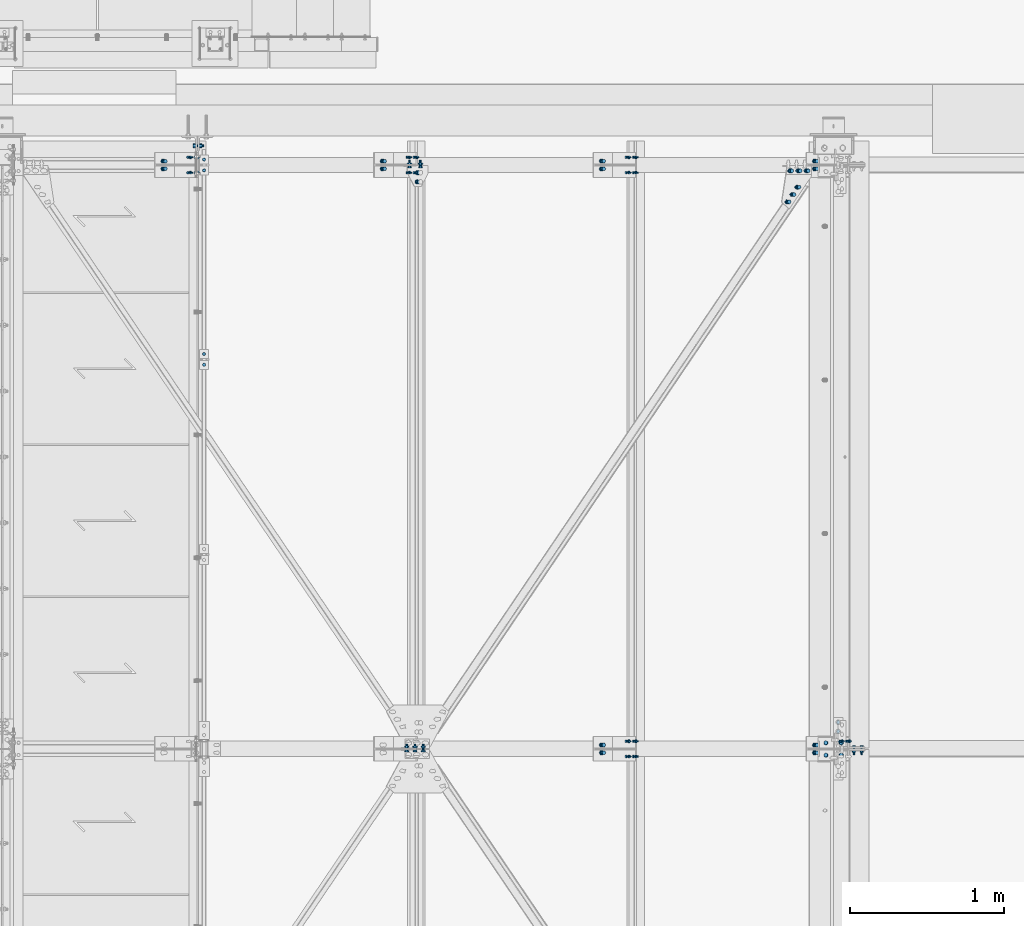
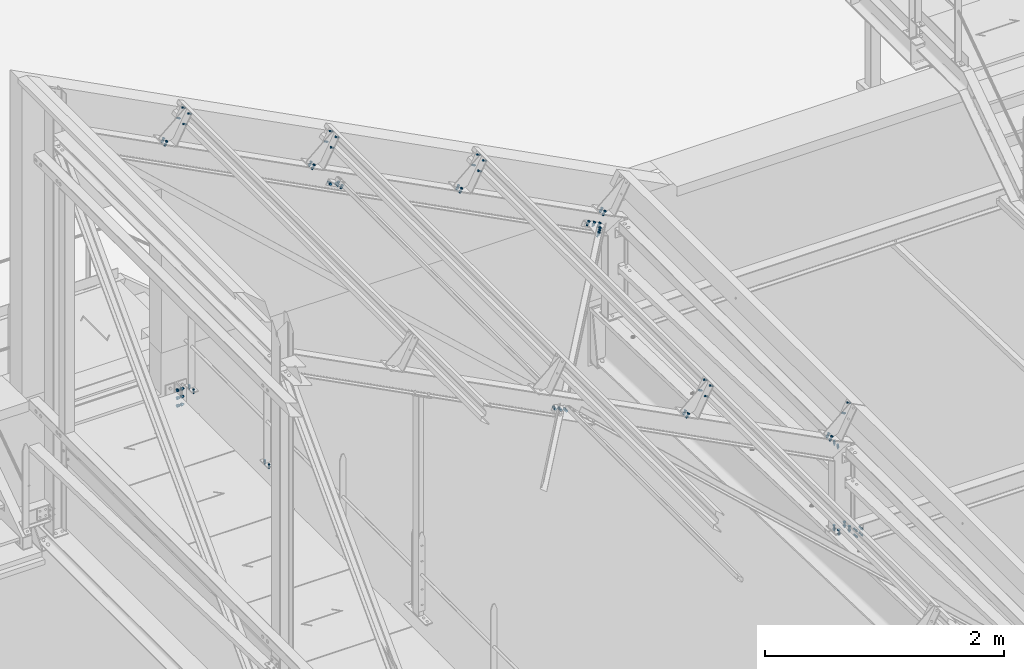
# One storey, part 177 of 362: 22 mechanical fasteners.
"""IFC2X3 building model written with IfcOpenShell, lengths in millimetres."""

import ifcopenshell
import ifcopenshell.guid

model = None  # the IFC model being written
_history = None  # IfcOwnerHistory: only IFC2X3 demands one
_inside = {}  # id of a spatial element -> (the spatial element, [elements in it])
_under = {}  # id of a project, library or spatial element -> (it, [spatial elements below it])
_declared = {}  # id of a project -> (the project, [libraries it declares])
_typed = {}  # id of a type object -> (the type object, [elements of that type])
_made_of = {}  # id of a material, layer set ... -> (it, [elements and type objects made of it])


def new_model(schema):
    """Start an empty IFC model of exactly this schema.

    Asked for "IFC4X3", IfcOpenShell would pick the latest addendum, in which some entities
    have other attributes; the version numbers below select the first issue.
    IFC2X3 requires an IfcOwnerHistory on every rooted entity: one is made here for all.
    """
    global model, _history
    if schema == "IFC4X3":
        model = ifcopenshell.file(schema_version=(4, 3, 0, 0))
    else:
        model = ifcopenshell.file(schema=schema)
    _inside.clear()
    _under.clear()
    _declared.clear()
    _typed.clear()
    _made_of.clear()
    _history = None
    if model.schema == "IFC2X3":
        org = make("IfcOrganization", Name="unknown")
        user = make(
            "IfcPersonAndOrganization",
            ThePerson=make("IfcPerson", FamilyName="unknown"),
            TheOrganization=org,
        )
        app = make(
            "IfcApplication",
            ApplicationDeveloper=org,
            Version="unknown",
            ApplicationFullName="unknown",
            ApplicationIdentifier="unknown",
        )
        _history = make(
            "IfcOwnerHistory",
            OwningUser=user,
            OwningApplication=app,
            ChangeAction="ADDED",
            CreationDate=0,
        )
    return model


def make(cls, **values):
    """One entity of the class cls with the attributes given. An attribute that is None is left unset."""
    return model.create_entity(
        cls, **{name: value for name, value in values.items() if value is not None}
    )


def rooted(cls, **values):
    """An entity with a GlobalId (a new one), such as an element, a storey or a relation."""
    return make(cls, GlobalId=ifcopenshell.guid.new(), OwnerHistory=_history, **values)


def si_unit(unit_type, name, prefix=None):
    """IfcSIUnit, for example si_unit("LENGTHUNIT", "METRE", prefix="MILLI")."""
    return make("IfcSIUnit", UnitType=unit_type, Prefix=prefix, Name=name)


def assignment(units):
    """IfcUnitAssignment: the units of a project."""
    return None if units is None else make("IfcUnitAssignment", Units=units)


def point(xyz):
    """IfcCartesianPoint."""
    return None if xyz is None else make("IfcCartesianPoint", Coordinates=xyz)


def direction(xyz):
    """IfcDirection."""
    return None if xyz is None else make("IfcDirection", DirectionRatios=xyz)


def frame(location, z_axis=None, x_axis=None):
    """IfcAxis2Placement3D, a coordinate frame: its origin and axes. An axis left out is left unset."""
    return make(
        "IfcAxis2Placement3D",
        Location=point(location),
        Axis=direction(z_axis),
        RefDirection=direction(x_axis),
    )


def frame_2d(location, x_axis=None):
    """IfcAxis2Placement2D, a coordinate frame in the plane: its origin and x axis."""
    return make(
        "IfcAxis2Placement2D", Location=point(location), RefDirection=direction(x_axis)
    )


def origin_with_axes():
    """The frame at (0, 0, 0) with the z axis (0, 0, 1) and the x axis (1, 0, 0) written out."""
    return frame((0.0, 0.0, 0.0), z_axis=(0.0, 0.0, 1.0), x_axis=(1.0, 0.0, 0.0))


def origin_2d_with_axis():
    """The frame at (0, 0) in the plane with the x axis (1, 0) written out."""
    return frame_2d((0.0, 0.0), x_axis=(1.0, 0.0))


def place(relative_to, where):
    """IfcLocalPlacement: puts the frame where relative to a parent placement (None: the world)."""
    return make(
        "IfcLocalPlacement", PlacementRelTo=relative_to, RelativePlacement=where
    )


def context(
    kind, dimensions, precision=None, world=None, true_north=None, identifier=None
):
    """IfcGeometricRepresentationContext, for example the 3D "Model" context."""
    return make(
        "IfcGeometricRepresentationContext",
        ContextIdentifier=identifier,
        ContextType=kind,
        CoordinateSpaceDimension=dimensions,
        Precision=precision,
        WorldCoordinateSystem=world,
        TrueNorth=true_north,
    )


def subcontext(parent, identifier, kind, view, scale=None):
    """IfcGeometricRepresentationSubContext, for example "Body" below "Model"."""
    return make(
        "IfcGeometricRepresentationSubContext",
        ContextIdentifier=identifier,
        ContextType=kind,
        ParentContext=parent,
        TargetScale=scale,
        TargetView=view,
    )


def project(units=None, contexts=None):
    """IfcProject with its units and contexts."""
    return rooted(
        "IfcProject",
        Name="project",
        RepresentationContexts=contexts,
        UnitsInContext=assignment(units),
    )


def spatial(cls, under=None, at=None, **own):
    """A site, building, storey or space (cls), placed at a placement, below another one or the project."""
    s = rooted(cls, ObjectPlacement=at, **own)
    if under is not None:
        _under.setdefault(under.id(), (under, []))[1].append(s)
    return s


def polyline(points):
    """IfcPolyline through the points."""
    return make("IfcPolyline", Points=[point(p) for p in points])


def circle_curve(where, radius):
    """IfcCircle in the frame where."""
    return make("IfcCircle", Position=where, Radius=radius)


def parameter(value):
    """IfcParameterValue: where a trimmed curve begins or ends, as a parameter of its basis curve."""
    return model.create_entity("IfcParameterValue", value)


def trimmed(basis, trim1, trim2, sense, master):
    """IfcTrimmedCurve: the piece of a basis curve between two trims."""
    return make(
        "IfcTrimmedCurve",
        BasisCurve=basis,
        Trim1=trim1,
        Trim2=trim2,
        SenseAgreement=sense,
        MasterRepresentation=master,
    )


def segment(curve, same_sense, transition):
    """IfcCompositeCurveSegment."""
    return make(
        "IfcCompositeCurveSegment",
        Transition=transition,
        SameSense=same_sense,
        ParentCurve=curve,
    )


def composite_curve(segments, self_intersect=None):
    """IfcCompositeCurve: segments joined end to end."""
    return make("IfcCompositeCurve", Segments=segments, SelfIntersect=self_intersect)


def profile(cls, at=None, kind="AREA", **sizes):
    """A parametric profile (cls). Its sizes go by their IFC names, for example OverallWidth=200.0."""
    return make(cls, ProfileType=kind, Position=at, **sizes)


def circle(**sizes):
    """IfcCircleProfileDef."""
    return profile("IfcCircleProfileDef", **sizes)


def outline(outer, holes=None, kind="AREA"):
    """IfcArbitraryClosedProfileDef: a profile drawn as a closed curve; with holes, ...WithVoids."""
    if holes is None:
        return make("IfcArbitraryClosedProfileDef", ProfileType=kind, OuterCurve=outer)
    return make(
        "IfcArbitraryProfileDefWithVoids",
        ProfileType=kind,
        OuterCurve=outer,
        InnerCurves=holes,
    )


def extrude(swept, where, along, depth):
    """IfcExtrudedAreaSolid: the profile swept, set in the frame where, extruded along a direction by depth."""
    return make(
        "IfcExtrudedAreaSolid",
        SweptArea=swept,
        Position=where,
        ExtrudedDirection=direction(along),
        Depth=depth,
    )


def shape(context_of_items, identifier, shape_type, items):
    """IfcShapeRepresentation: the items that make up one representation, for example the "Body"."""
    return make(
        "IfcShapeRepresentation",
        ContextOfItems=context_of_items,
        RepresentationIdentifier=identifier,
        RepresentationType=shape_type,
        Items=items,
    )


def source(mapping_origin, context_of_items, identifier, shape_type, items):
    """IfcRepresentationMap: a shape defined once, which mapped items show again and again."""
    return make(
        "IfcRepresentationMap",
        MappingOrigin=mapping_origin,
        MappedRepresentation=shape(context_of_items, identifier, shape_type, items),
    )


def transform(
    local_origin,
    x_axis=None,
    y_axis=None,
    z_axis=None,
    scale=None,
    scale2=None,
    scale3=None,
    uniform=True,
):
    """IfcCartesianTransformationOperator3D, or its non-uniform kind. x_axis, y_axis, z_axis: its Axis1, 2, 3."""
    if uniform:
        return make(
            "IfcCartesianTransformationOperator3D",
            Axis1=direction(x_axis),
            Axis2=direction(y_axis),
            LocalOrigin=point(local_origin),
            Scale=scale,
            Axis3=direction(z_axis),
        )
    return make(
        "IfcCartesianTransformationOperator3DnonUniform",
        Axis1=direction(x_axis),
        Axis2=direction(y_axis),
        LocalOrigin=point(local_origin),
        Scale=scale,
        Axis3=direction(z_axis),
        Scale2=scale2,
        Scale3=scale3,
    )


def mapped(mapping_source, mapping_target):
    """IfcMappedItem: shows the shape of a source again, moved by a transform."""
    return make(
        "IfcMappedItem", MappingSource=mapping_source, MappingTarget=mapping_target
    )


def material(Name=None, Category=None):
    """IfcMaterial."""
    return make("IfcMaterial", Name=Name, Category=Category)


def made_of(thing, what):
    """Note that an element or type object is made of a material, layer set ...; save() writes the relation."""
    if what is not None:
        _made_of.setdefault(what.id(), (what, []))[1].append(thing)
    return thing


def type_object(cls, material=None, **own):
    """A type object (cls), such as IfcWallType, which elements share."""
    return made_of(rooted(cls, **own), material)


def element(
    cls,
    number,
    at=None,
    inside=None,
    cuts=None,
    type_object=None,
    material=None,
    context=None,
    identifier="Body",
    shape_type=None,
    held_by="IfcProductDefinitionShape",
    body=None,
    shapes=None,
    **own,
):
    """One element of the class cls, such as IfcWall. Its Tag is "e" and its number.

    at: its placement. inside: the storey or other place that contains it. cuts: it is an
    opening in that element (IfcRelVoidsElement). A single representation is given by context,
    identifier, shape_type and body (its items); several are given by shapes. held_by: the class
    of the entity that holds the representations. save() writes the other relations.
    """
    e = rooted(cls, Tag="e%d" % number, ObjectPlacement=at, **own)
    if body is not None:
        shapes = [shape(context, identifier, shape_type, body)]
    if shapes is not None:
        e.Representation = make(held_by, Representations=shapes)
    if inside is not None:
        _inside.setdefault(inside.id(), (inside, []))[1].append(e)
    if cuts is not None:
        rooted(
            "IfcRelVoidsElement", RelatingBuildingElement=cuts, RelatedOpeningElement=e
        )
    if type_object is not None:
        _typed.setdefault(type_object.id(), (type_object, []))[1].append(e)
    return made_of(e, material)


def aggregate(whole, parts):
    """IfcRelAggregates: a whole, such as a stair, and the parts it consists of."""
    return rooted("IfcRelAggregates", RelatingObject=whole, RelatedObjects=parts)


def save(model, path):
    """Write the relations noted so far, then the file.

    IfcRelAggregates (storeys below a building ...), IfcRelContainedInSpatialStructure (elements
    in a storey), IfcRelDefinesByType, IfcRelAssociatesMaterial and IfcRelDeclares: one each for
    every whole, place, type object, material and project.
    """
    for whole, parts in _under.values():
        aggregate(whole, parts)
    for where, things in _inside.values():
        rooted(
            "IfcRelContainedInSpatialStructure",
            RelatedElements=things,
            RelatingStructure=where,
        )
    for kind, things in _typed.values():
        rooted("IfcRelDefinesByType", RelatedObjects=things, RelatingType=kind)
    for what, things in _made_of.values():
        rooted("IfcRelAssociatesMaterial", RelatedObjects=things, RelatingMaterial=what)
    for by, libraries in _declared.values():
        rooted("IfcRelDeclares", RelatingContext=by, RelatedDefinitions=libraries)
    model.write(path)


model = new_model("IFC2X3")

# Units and contexts
model_context = context("Model", 3, precision=1e-05, world=origin_with_axes())
body_context = subcontext(model_context, "Body", "Model", "MODEL_VIEW")
ifc_project = project(units=[si_unit("LENGTHUNIT", "METRE", prefix="MILLI"), si_unit("AREAUNIT", "SQUARE_METRE"), si_unit("VOLUMEUNIT", "CUBIC_METRE"), si_unit("MASSUNIT", "GRAM", prefix="KILO"), si_unit("TIMEUNIT", "SECOND"), si_unit("PLANEANGLEUNIT", "RADIAN"), si_unit("SOLIDANGLEUNIT", "STERADIAN"), si_unit("THERMODYNAMICTEMPERATUREUNIT", "DEGREE_CELSIUS"), si_unit("LUMINOUSINTENSITYUNIT", "LUMEN")], contexts=[model_context])

# Site, building, storey
site_placement = place(None, origin_with_axes())
site = spatial("IfcSite", under=ifc_project, at=site_placement, Name="Undefined", CompositionType="ELEMENT")
building_placement = place(site_placement, origin_with_axes())
building = spatial("IfcBuilding", under=site, at=building_placement, Name="Undefined", CompositionType="ELEMENT")
storey_placement = place(building_placement, origin_with_axes())
storey = spatial("IfcBuildingStorey", under=building, at=storey_placement, Name="Undefined", CompositionType="ELEMENT", Elevation=0.0)

# Mechanical fasteners
ifc_material_1 = material(Name="8.8-SB-ZINGUE")
mechanical_fastener_type = type_object("IfcMechanicalFastenerType", Name="Bolt assembly")
shared_shape_1 = source(origin_with_axes(), body_context, "Body", "SweptSolid", [
    extrude(circle(Radius=7.0, at=origin_2d_with_axis()), frame((0.0, -0.100011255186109, 0.0), z_axis=(0.0, 1.0, 0.0), x_axis=(1.0, 0.0, 0.0)), (0.0, 0.0, 1.0), 3.1),
    extrude(circle(Radius=7.0, at=origin_2d_with_axis()), frame((0.0, -9.9, 0.0), z_axis=(0.0, 1.0, 0.0), x_axis=(1.0, 0.0, 0.0)), (0.0, 0.0, 1.0), 10.0),
    extrude(outline(polyline([(10.39230484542, 0.0), (5.19615242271, 9.00000000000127), (-5.19615242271, 9.00000000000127), (-10.39230484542, 0.0), (-5.19615242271, -9.00000000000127), (5.19615242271, -9.00000000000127), (10.39230484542, 0.0)])), frame((0.0, -17.92, 0.0), z_axis=(0.0, 1.0, 0.0), x_axis=(1.0, 0.0, 0.0)), (0.0, 0.0, 1.0), 7.92),
    extrude(circle(Radius=6.0, at=origin_2d_with_axis()), frame((0.0, -10.0000010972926, 0.0), z_axis=(0.0, 1.0, 0.0), x_axis=(1.0, 0.0, 0.0)), (0.0, 0.0, 1.0), 30.0),
    extrude(outline(polyline([(11.5008173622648, 0.0), (5.7504086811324, 9.96000000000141), (-5.7504086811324, 9.96000000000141), (-11.5008173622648, 0.0), (-5.7504086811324, -9.96000000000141), (5.7504086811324, -9.96000000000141), (11.5008173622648, 0.0)])), frame((0.0, 3.00000067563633, 0.0), z_axis=(0.0, 1.0, 0.0), x_axis=(1.0, 0.0, 0.0)), (0.0, 0.0, 1.0), 7.92),
])
mechanical_fastener_1_placement = place(storey_placement, frame((28930.4869404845, 11449.9999403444, 8812.17854909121), z_axis=(0.0, 1.0, 0.0), x_axis=(0.460093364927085, 0.0, 0.887870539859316)))
element("IfcMechanicalFastener", 1, at=mechanical_fastener_1_placement, inside=storey, type_object=mechanical_fastener_type, material=ifc_material_1, Name="Bolt assembly", NominalDiameter=12.0, NominalLength=30.0, context=body_context, shape_type="MappedRepresentation", body=[
    mapped(shared_shape_1, transform((0.0, 0.0, 0.0))),
    mapped(shared_shape_1, transform((99.9999999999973, -1.63709046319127e-11, 7.73070496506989e-12))),
])
ifc_material_2 = material(Name="#_SB-8.8-ZINGUE")
shared_shape_2 = source(origin_with_axes(), body_context, "Body", "SweptSolid", [
    extrude(circle(Radius=9.0, at=origin_2d_with_axis()), frame((0.0, 0.1, 0.0), z_axis=(0.0, 1.0, 0.0), x_axis=(1.0, 0.0, 0.0)), (0.0, 0.0, 1.0), 6.0),
    extrude(circle(Radius=9.0, at=origin_2d_with_axis()), frame((0.0, 5.90002706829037, 0.0), z_axis=(0.0, 1.0, 0.0), x_axis=(1.0, 0.0, 0.0)), (0.0, 0.0, 1.0), 6.1),
    extrude(outline(polyline([(13.85640646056, 0.0), (6.92820323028, 12.0000000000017), (-6.92820323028, 12.0000000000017), (-13.85640646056, 0.0), (-6.92820323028, -12.0000000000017), (6.92820323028, -12.0000000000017), (13.85640646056, 0.0)])), frame((0.0, -10.5600019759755, 0.0), z_axis=(0.0, 1.0, 0.0), x_axis=(1.0, 0.0, 0.0)), (0.0, 0.0, 1.0), 10.56),
    extrude(circle(Radius=8.0, at=origin_2d_with_axis()), frame((0.0, 0.0, 0.0), z_axis=(0.0, 1.0, 0.0), x_axis=(1.0, 0.0, 0.0)), (0.0, 0.0, 1.0), 40.0),
    extrude(outline(polyline([(15.3344231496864, 0.0), (7.6672115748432, 13.2800000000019), (-7.6672115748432, 13.2800000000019), (-15.3344231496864, 0.0), (-7.6672115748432, -13.2800000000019), (7.6672115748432, -13.2800000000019), (15.3344231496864, 0.0)])), frame((0.0, 12.0000270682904, 0.0), z_axis=(0.0, 1.0, 0.0), x_axis=(1.0, 0.0, 0.0)), (0.0, 0.0, 1.0), 10.56),
])
mechanical_fastener_2_placement = place(storey_placement, frame((28658.0390790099, 15162.0003426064, 8604.21060835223), z_axis=(-0.887870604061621, -1.29999898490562e-08, 0.460093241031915), x_axis=(0.0, 1.0, 0.0)))
element("IfcMechanicalFastener", 2, at=mechanical_fastener_2_placement, inside=storey, type_object=mechanical_fastener_type, material=ifc_material_2, Name="Bolt assembly", NominalDiameter=16.0, NominalLength=40.0, context=body_context, shape_type="MappedRepresentation", body=[
    mapped(shared_shape_2, transform((0.0, 0.0, -60.0))),
    mapped(shared_shape_2, transform((0.0, 0.0, 0.0))),
    mapped(shared_shape_2, transform((0.0, 0.0, 60.0))),
])
shared_shape_3 = source(origin_with_axes(), body_context, "Body", "SweptSolid", [
    extrude(circle(Radius=7.0, at=origin_2d_with_axis()), frame((0.0, -10.0000010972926, 0.0), z_axis=(0.0, 1.0, 0.0), x_axis=(1.0, 0.0, 0.0)), (0.0, 0.0, 1.0), 10.1),
    extrude(outline(polyline([(10.39230484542, 0.0), (5.19615242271, 9.00000000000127), (-5.19615242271, 9.00000000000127), (-10.39230484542, 0.0), (-5.19615242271, -9.00000000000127), (5.19615242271, -9.00000000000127), (10.39230484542, 0.0)])), frame((0.0, -17.92, 0.0), z_axis=(0.0, 1.0, 0.0), x_axis=(1.0, 0.0, 0.0)), (0.0, 0.0, 1.0), 7.92),
    extrude(circle(Radius=6.0, at=origin_2d_with_axis()), frame((0.0, -10.0000010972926, 0.0), z_axis=(0.0, 1.0, 0.0), x_axis=(1.0, 0.0, 0.0)), (0.0, 0.0, 1.0), 40.0),
    extrude(outline(polyline([(11.5008173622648, 0.0), (5.7504086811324, 9.96000000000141), (-5.7504086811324, 9.96000000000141), (-11.5008173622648, 0.0), (-5.7504086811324, -9.96000000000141), (5.7504086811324, -9.96000000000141), (11.5008173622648, 0.0)])), frame((0.0, 0.0, 0.0), z_axis=(0.0, 1.0, 0.0), x_axis=(1.0, 0.0, 0.0)), (0.0, 0.0, 1.0), 7.92),
])
for number, where, z_axis, x_axis, name in (
    (3, (24783.9916087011, 15165.0000000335, 8239.99999648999), (-1.0, 0.0, 0.0), (0.0, 1.0, 0.0), "Bolt assembly"),
    (4, (24783.9916077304, 13900.0034395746, 8239.99999745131), (-1.0, 0.0, 0.0), (0.0, 1.0, 0.0), "Bolt assembly"),
):
    element("IfcMechanicalFastener", number, at=place(storey_placement, frame(where, z_axis=z_axis, x_axis=x_axis)), inside=storey, type_object=mechanical_fastener_type, material=ifc_material_1, Name=name, NominalDiameter=12.0, NominalLength=40.0, context=body_context, shape_type="MappedRepresentation", body=[
        mapped(shared_shape_3, transform((0.0, 0.0, 0.0))),
        mapped(shared_shape_3, transform((70.0, -2.91038304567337e-11, 2.18278728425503e-10))),
    ])
shared_shape_4 = source(origin_with_axes(), body_context, "Body", "SweptSolid", [
    extrude(circle(Radius=7.0, at=origin_2d_with_axis()), frame((0.0, -0.10007666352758, 0.0), z_axis=(0.0, 1.0, 0.0), x_axis=(1.0, 0.0, 0.0)), (0.0, 0.0, 1.0), 1.6),
    extrude(circle(Radius=7.0, at=origin_2d_with_axis()), frame((0.0, -9.9, 0.0), z_axis=(0.0, 1.0, 0.0), x_axis=(1.0, 0.0, 0.0)), (0.0, 0.0, 1.0), 10.0),
    extrude(outline(polyline([(10.39230484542, 0.0), (5.19615242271, 9.00000000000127), (-5.19615242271, 9.00000000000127), (-10.39230484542, 0.0), (-5.19615242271, -9.00000000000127), (5.19615242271, -9.00000000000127), (10.39230484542, 0.0)])), frame((0.0, -17.92, 0.0), z_axis=(0.0, 1.0, 0.0), x_axis=(1.0, 0.0, 0.0)), (0.0, 0.0, 1.0), 7.92),
    extrude(circle(Radius=6.0, at=origin_2d_with_axis()), frame((0.0, -10.0000010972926, 0.0), z_axis=(0.0, 1.0, 0.0), x_axis=(1.0, 0.0, 0.0)), (0.0, 0.0, 1.0), 30.0),
    extrude(outline(polyline([(11.5008173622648, 0.0), (5.7504086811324, 9.96000000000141), (-5.7504086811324, 9.96000000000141), (-11.5008173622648, 0.0), (-5.7504086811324, -9.96000000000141), (5.7504086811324, -9.96000000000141), (11.5008173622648, 0.0)])), frame((0.0, 1.49996853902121, 0.0), z_axis=(0.0, 1.0, 0.0), x_axis=(1.0, 0.0, 0.0)), (0.0, 0.0, 1.0), 7.92),
])
for number, where, z_axis, x_axis, name in (
    (5, (24690.1060148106, 15200.0000596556, 11008.4114172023), (0.0, 1.0, 0.0), (0.460093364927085, 0.0, 0.887870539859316), "Bolt assembly"),
    (6, (27543.3560162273, 15200.0000596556, 9529.86146341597), (0.0, 1.0, 0.0), (0.460093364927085, 0.0, 0.887870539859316), "Bolt assembly"),
    (7, (26116.7310155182, 15200.0000596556, 10269.1364403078), (0.0, 1.0, 0.0), (0.460093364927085, 0.0, 0.887870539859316), "Bolt assembly"),
):
    element("IfcMechanicalFastener", number, at=place(storey_placement, frame(where, z_axis=z_axis, x_axis=x_axis)), inside=storey, type_object=mechanical_fastener_type, material=ifc_material_1, Name=name, NominalDiameter=12.0, NominalLength=30.0, context=body_context, shape_type="MappedRepresentation", body=[
        mapped(shared_shape_4, transform((0.0, 0.0, -50.0))),
        mapped(shared_shape_4, transform((102.00000000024, -2.51020537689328e-10, -50.0))),
        mapped(shared_shape_4, transform((0.0, 0.0, 50.0))),
        mapped(shared_shape_4, transform((102.00000000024, -2.51020537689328e-10, 50.0))),
    ])
shared_shape_5 = source(origin_with_axes(), body_context, "Body", "SweptSolid", [
    extrude(circle(Radius=7.0, at=origin_2d_with_axis()), frame((0.0, -0.10007666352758, 0.0), z_axis=(0.0, 1.0, 0.0), x_axis=(1.0, 0.0, 0.0)), (0.0, 0.0, 1.0), 1.6),
    extrude(circle(Radius=7.0, at=origin_2d_with_axis()), frame((0.0, -9.9, 0.0), z_axis=(0.0, 1.0, 0.0), x_axis=(1.0, 0.0, 0.0)), (0.0, 0.0, 1.0), 10.0),
    extrude(outline(polyline([(10.39230484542, 0.0), (5.19615242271, 9.00000000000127), (-5.19615242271, 9.00000000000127), (-10.39230484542, 0.0), (-5.19615242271, -9.00000000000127), (5.19615242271, -9.00000000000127), (10.39230484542, 0.0)])), frame((0.0, -17.92, 0.0), z_axis=(0.0, 1.0, 0.0), x_axis=(1.0, 0.0, 0.0)), (0.0, 0.0, 1.0), 7.92),
    extrude(circle(Radius=6.0, at=origin_2d_with_axis()), frame((0.0, -10.0000010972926, 0.0), z_axis=(0.0, 1.0, 0.0), x_axis=(1.0, 0.0, 0.0)), (0.0, 0.0, 1.0), 30.0),
    extrude(outline(polyline([(11.5008173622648, 0.0), (5.7504086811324, 9.96000000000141), (-5.7504086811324, 9.96000000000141), (-11.5008173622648, 0.0), (-5.7504086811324, -9.96000000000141), (5.7504086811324, -9.96000000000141), (11.5008173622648, 0.0)])), frame((0.0, 1.50001896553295, 0.0), z_axis=(0.0, 1.0, 0.0), x_axis=(1.0, 0.0, 0.0)), (0.0, 0.0, 1.0), 7.92),
])
mechanical_fastener_3_placement = place(storey_placement, frame((27543.3560162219, 11400.0000596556, 9529.86146341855), z_axis=(0.0, 1.0, 0.0), x_axis=(0.460093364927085, 0.0, 0.887870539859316)))
element("IfcMechanicalFastener", 8, at=mechanical_fastener_3_placement, inside=storey, type_object=mechanical_fastener_type, material=ifc_material_1, Name="Bolt assembly", NominalDiameter=12.0, NominalLength=30.0, context=body_context, shape_type="MappedRepresentation", body=[
    mapped(shared_shape_5, transform((0.0, 0.0, -50.0))),
    mapped(shared_shape_5, transform((102.00000000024, -2.51020537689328e-10, -50.0))),
    mapped(shared_shape_5, transform((0.0, 0.0, 50.0))),
    mapped(shared_shape_5, transform((102.00000000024, -2.51020537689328e-10, 50.0))),
])
shared_shape_6 = source(origin_with_axes(), body_context, "Body", "SweptSolid", [
    extrude(circle(Radius=9.0, at=origin_2d_with_axis()), frame((0.0, -0.0999426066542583, 0.0), z_axis=(0.0, 1.0, 0.0), x_axis=(1.0, 0.0, 0.0)), (0.0, 0.0, 1.0), 8.6),
    extrude(circle(Radius=9.0, at=origin_2d_with_axis()), frame((0.0, -9.9, 0.0), z_axis=(0.0, 1.0, 0.0), x_axis=(1.0, 0.0, 0.0)), (0.0, 0.0, 1.0), 10.0),
    extrude(outline(polyline([(13.85640646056, 0.0), (6.92820323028, 12.0000000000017), (-6.92820323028, 12.0000000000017), (-13.85640646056, 0.0), (-6.92820323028, -12.0000000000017), (6.92820323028, -12.0000000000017), (13.85640646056, 0.0)])), frame((0.0, -20.5600000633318, 0.0), z_axis=(0.0, 1.0, 0.0), x_axis=(1.0, 0.0, 0.0)), (0.0, 0.0, 1.0), 10.56),
    extrude(circle(Radius=8.0, at=origin_2d_with_axis()), frame((0.0, -10.0000010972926, 0.0), z_axis=(0.0, 1.0, 0.0), x_axis=(1.0, 0.0, 0.0)), (0.0, 0.0, 1.0), 40.0),
    extrude(outline(polyline([(15.3344231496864, 0.0), (7.6672115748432, 13.2800000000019), (-7.6672115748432, 13.2800000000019), (-15.3344231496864, 0.0), (-7.6672115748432, -13.2800000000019), (7.6672115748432, -13.2800000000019), (15.3344231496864, 0.0)])), frame((0.0, 8.50005763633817, 0.0), z_axis=(0.0, 1.0, 0.0), x_axis=(1.0, 0.0, 0.0)), (0.0, 0.0, 1.0), 10.56),
])
for number, where, z_axis, x_axis, name in (
    (9, (24522.9168670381, 15200.0000375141, 10859.6539862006), (0.0, 1.0, 0.0), (0.887870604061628, 0.0, -0.460093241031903), "Bolt assembly"),
    (10, (28762.8377191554, 15200.0000375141, 8662.53323728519), (0.0, 1.0, 0.0), (0.887870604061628, 0.0, -0.460093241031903), "Bolt assembly"),
    (11, (28762.8377191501, 11400.0000375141, 8662.53323728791), (0.0, 1.0, 0.0), (0.887870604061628, 0.0, -0.460093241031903), "Bolt assembly"),
    (12, (27376.1668684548, 15200.0000375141, 9381.10403241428), (0.0, 1.0, 0.0), (0.887870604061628, 0.0, -0.460093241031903), "Bolt assembly"),
    (13, (27376.1668684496, 11400.0000375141, 9381.10403241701), (0.0, 1.0, 0.0), (0.887870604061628, 0.0, -0.460093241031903), "Bolt assembly"),
    (14, (25949.5418677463, 15200.0000375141, 10120.3790093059), (0.0, 1.0, 0.0), (0.887870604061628, 0.0, -0.460093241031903), "Bolt assembly"),
):
    element("IfcMechanicalFastener", number, at=place(storey_placement, frame(where, z_axis=z_axis, x_axis=x_axis)), inside=storey, type_object=mechanical_fastener_type, material=ifc_material_1, Name=name, NominalDiameter=16.0, NominalLength=40.0, context=body_context, shape_type="MappedRepresentation", body=[
        mapped(shared_shape_6, transform((0.0, 0.0, -25.0))),
        mapped(shared_shape_6, transform((0.0, 0.0, 25.0))),
    ])
shared_shape_7 = source(origin_with_axes(), body_context, "Body", "SweptSolid", [
    extrude(circle(Radius=9.0, at=origin_2d_with_axis()), frame((0.0, -5.9000361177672, 0.0), z_axis=(0.0, 1.0, 0.0), x_axis=(1.0, 0.0, 0.0)), (0.0, 0.0, 1.0), 6.0),
    extrude(circle(Radius=9.0, at=origin_2d_with_axis()), frame((0.0, -0.0999426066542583, 0.0), z_axis=(0.0, 1.0, 0.0), x_axis=(1.0, 0.0, 0.0)), (0.0, 0.0, 1.0), 6.1),
    extrude(outline(polyline([(13.85640646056, 0.0), (6.92820323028, 12.0000000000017), (-6.92820323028, 12.0000000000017), (-13.85640646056, 0.0), (-6.92820323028, -12.0000000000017), (6.92820323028, -12.0000000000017), (13.85640646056, 0.0)])), frame((0.0, -16.5600265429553, 0.0), z_axis=(0.0, 1.0, 0.0), x_axis=(1.0, 0.0, 0.0)), (0.0, 0.0, 1.0), 10.56),
    extrude(circle(Radius=8.0, at=origin_2d_with_axis()), frame((0.0, -6.00003611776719, 0.0), z_axis=(0.0, 1.0, 0.0), x_axis=(1.0, 0.0, 0.0)), (0.0, 0.0, 1.0), 40.0),
    extrude(outline(polyline([(15.3344231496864, 0.0), (7.6672115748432, 13.2800000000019), (-7.6672115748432, 13.2800000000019), (-15.3344231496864, 0.0), (-7.6672115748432, -13.2800000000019), (7.6672115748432, -13.2800000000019), (15.3344231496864, 0.0)])), frame((0.0, 6.00005739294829, 0.0), z_axis=(0.0, 1.0, 0.0), x_axis=(1.0, 0.0, 0.0)), (0.0, 0.0, 1.0), 10.56),
])
mechanical_fastener_4_placement = place(storey_placement, frame((28648.8211598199, 15055.1901545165, 8608.98733679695), z_axis=(0.706117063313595, -0.606225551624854, -0.365908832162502), x_axis=(-0.53824984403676, -0.795292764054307, 0.278920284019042)))
element("IfcMechanicalFastener", 15, at=mechanical_fastener_4_placement, inside=storey, type_object=mechanical_fastener_type, material=ifc_material_2, Name="Bolt assembly", NominalDiameter=16.0, NominalLength=40.0, context=body_context, shape_type="MappedRepresentation", body=[
    mapped(shared_shape_7, transform((0.0, 0.0, 0.0))),
    mapped(shared_shape_7, transform((60.0, 0.0, 0.0))),
    mapped(shared_shape_7, transform((120.0, 0.0, 0.0))),
])
shared_shape_8 = source(origin_with_axes(), body_context, "Body", "SweptSolid", [
    extrude(circle(Radius=9.0, at=origin_2d_with_axis()), frame((0.0, -2.80024280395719, 0.0), z_axis=(0.0, 1.0, 0.0), x_axis=(1.0, 0.0, 0.0)), (0.0, 0.0, 1.0), 5.6),
    extrude(circle(Radius=9.0, at=origin_2d_with_axis()), frame((0.0, 2.89989517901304, 0.0), z_axis=(0.0, 1.0, 0.0), x_axis=(1.0, 0.0, 0.0)), (0.0, 0.0, 1.0), 6.1),
    extrude(circle(Radius=9.0, at=origin_2d_with_axis()), frame((0.0, -8.89990143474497, 0.0), z_axis=(0.0, 1.0, 0.0), x_axis=(1.0, 0.0, 0.0)), (0.0, 0.0, 1.0), 6.0),
    extrude(outline(polyline([(13.85640646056, 0.0), (6.92820323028, 12.0000000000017), (-6.92820323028, 12.0000000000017), (-13.85640646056, 0.0), (-6.92820323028, -12.0000000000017), (6.92820323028, -12.0000000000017), (13.85640646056, 0.0)])), frame((0.0, -19.559901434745, 0.0), z_axis=(0.0, 1.0, 0.0), x_axis=(1.0, 0.0, 0.0)), (0.0, 0.0, 1.0), 10.56),
    extrude(circle(Radius=8.0, at=origin_2d_with_axis()), frame((0.0, -8.99990143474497, 0.0), z_axis=(0.0, 1.0, 0.0), x_axis=(1.0, 0.0, 0.0)), (0.0, 0.0, 1.0), 40.0),
    extrude(outline(polyline([(15.3344231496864, 0.0), (7.6672115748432, 13.2800000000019), (-7.6672115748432, 13.2800000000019), (-15.3344231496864, 0.0), (-7.6672115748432, -13.2800000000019), (7.6672115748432, -13.2800000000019), (15.3344231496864, 0.0)])), frame((0.0, 8.9999337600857, 0.0), z_axis=(0.0, 1.0, 0.0), x_axis=(1.0, 0.0, 0.0)), (0.0, 0.0, 1.0), 10.56),
])
mechanical_fastener_5_placement = place(storey_placement, frame((26156.1370936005, 11400.0002053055, 9854.51464412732), z_axis=(-0.887870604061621, -1.29999898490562e-08, 0.460093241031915), x_axis=(0.460093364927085, 0.0, 0.887870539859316)))
element("IfcMechanicalFastener", 16, at=mechanical_fastener_5_placement, inside=storey, type_object=mechanical_fastener_type, material=ifc_material_2, Name="Bolt assembly", NominalDiameter=16.0, NominalLength=40.0, context=body_context, shape_type="MappedRepresentation", body=[
    mapped(shared_shape_8, transform((0.0, 0.0, -60.0))),
    mapped(shared_shape_8, transform((0.0, 0.0, 0.0))),
    mapped(shared_shape_8, transform((0.0, 0.0, 60.0))),
])
shared_shape_9 = source(origin_with_axes(), body_context, "Body", "SweptSolid", [
    extrude(circle(Radius=9.0, at=origin_2d_with_axis()), frame((0.0, -2.90024280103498, 0.0), z_axis=(0.0, 1.0, 0.0), x_axis=(1.0, 0.0, 0.0)), (0.0, 0.0, 1.0), 5.7),
    extrude(circle(Radius=9.0, at=origin_2d_with_axis()), frame((0.0, -8.90005437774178, 0.0), z_axis=(0.0, 1.0, 0.0), x_axis=(1.0, 0.0, 0.0)), (0.0, 0.0, 1.0), 6.0),
    extrude(outline(polyline([(13.85640646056, 0.0), (6.92820323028, 12.0000000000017), (-6.92820323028, 12.0000000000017), (-13.85640646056, 0.0), (-6.92820323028, -12.0000000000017), (6.92820323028, -12.0000000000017), (13.85640646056, 0.0)])), frame((0.0, -19.5600543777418, 0.0), z_axis=(0.0, 1.0, 0.0), x_axis=(1.0, 0.0, 0.0)), (0.0, 0.0, 1.0), 10.56),
    extrude(circle(Radius=8.0, at=origin_2d_with_axis()), frame((0.0, -9.00005437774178, 0.0), z_axis=(0.0, 1.0, 0.0), x_axis=(1.0, 0.0, 0.0)), (0.0, 0.0, 1.0), 40.0),
    extrude(outline(polyline([(15.3344231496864, 0.0), (7.6672115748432, 13.2800000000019), (-7.6672115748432, 13.2800000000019), (-15.3344231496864, 0.0), (-7.6672115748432, -13.2800000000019), (7.6672115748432, -13.2800000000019), (15.3344231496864, 0.0)])), frame((0.0, 2.79975710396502, 0.0), z_axis=(0.0, 1.0, 0.0), x_axis=(1.0, 0.0, 0.0)), (0.0, 0.0, 1.0), 10.56),
])
mechanical_fastener_6_placement = place(storey_placement, frame((26156.1370814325, 15200.0002053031, 9854.51462088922), z_axis=(-0.887870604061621, -1.29999898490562e-08, 0.460093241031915), x_axis=(0.460093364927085, 0.0, 0.887870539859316)))
element("IfcMechanicalFastener", 17, at=mechanical_fastener_6_placement, inside=storey, type_object=mechanical_fastener_type, material=ifc_material_2, Name="Bolt assembly", NominalDiameter=16.0, NominalLength=40.0, context=body_context, shape_type="MappedRepresentation", body=[
    mapped(shared_shape_9, transform((0.0, 0.0, 40.0))),
    mapped(shared_shape_9, transform((0.0, 0.0, -40.0))),
])
shared_shape_10 = source(origin_with_axes(), body_context, "Body", "SweptSolid", [
    extrude(circle(Radius=9.0, at=origin_2d_with_axis()), frame((0.0, -3.89999843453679, 0.0), z_axis=(0.0, 1.0, 0.0), x_axis=(1.0, 0.0, 0.0)), (0.0, 0.0, 1.0), 4.0),
    extrude(circle(Radius=9.0, at=origin_2d_with_axis()), frame((0.0, -0.10007666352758, 0.0), z_axis=(0.0, 1.0, 0.0), x_axis=(1.0, 0.0, 0.0)), (0.0, 0.0, 1.0), 6.1),
    extrude(outline(polyline([(13.85640646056, 0.0), (6.92820323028, 12.0000000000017), (-6.92820323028, 12.0000000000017), (-13.85640646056, 0.0), (-6.92820323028, -12.0000000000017), (6.92820323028, -12.0000000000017), (13.85640646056, 0.0)])), frame((0.0, -14.560000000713, 0.0), z_axis=(0.0, 1.0, 0.0), x_axis=(1.0, 0.0, 0.0)), (0.0, 0.0, 1.0), 10.56),
    extrude(circle(Radius=8.0, at=origin_2d_with_axis()), frame((0.0, -3.99999923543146, 0.0), z_axis=(0.0, 1.0, 0.0), x_axis=(1.0, 0.0, 0.0)), (0.0, 0.0, 1.0), 30.0),
    extrude(outline(polyline([(15.3344231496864, 0.0), (7.6672115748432, 13.2800000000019), (-7.6672115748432, 13.2800000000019), (-15.3344231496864, 0.0), (-7.6672115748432, -13.2800000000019), (7.6672115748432, -13.2800000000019), (15.3344231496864, 0.0)])), frame((0.0, 6.0, 0.0), z_axis=(0.0, 1.0, 0.0), x_axis=(1.0, 0.0, 0.0)), (0.0, 0.0, 1.0), 10.56),
])
mechanical_fastener_7_placement = place(storey_placement, frame((26175.0042702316, 15150.0001509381, 9890.91560944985), z_axis=(0.887870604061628, 0.0, -0.460093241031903), x_axis=(0.0, -1.0, 0.0)))
element("IfcMechanicalFastener", 18, at=mechanical_fastener_7_placement, inside=storey, type_object=mechanical_fastener_type, material=ifc_material_2, Name="Bolt assembly", NominalDiameter=16.0, NominalLength=30.0, context=body_context, shape_type="MappedRepresentation", body=[
    mapped(shared_shape_10, transform((0.0, 0.0, 0.0))),
    mapped(shared_shape_10, transform((60.0, 0.0, 0.0))),
])
shared_shape_11 = source(origin_with_axes(), body_context, "Body", "SweptSolid", [
    extrude(circle(Radius=7.0, at=origin_2d_with_axis()), frame((0.0, -3.89999843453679, 0.0), z_axis=(0.0, 1.0, 0.0), x_axis=(1.0, 0.0, 0.0)), (0.0, 0.0, 1.0), 4.0),
    extrude(outline(composite_curve([segment(polyline([(-7.0, 7.0), (7.0, 7.0)]), True, "CONTINUOUS"), segment(trimmed(circle_curve(frame_2d((7.0, 0.0), x_axis=(0.0, 1.0)), 7.0), [parameter(0.0)], [parameter(3.14159265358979)], False, "PARAMETER"), True, "CONTINUOUS"), segment(polyline([(7.0, -7.0), (-7.0, -7.0)]), True, "CONTINUOUS"), segment(trimmed(circle_curve(frame_2d((-7.0, 0.0), x_axis=(0.0, -1.0)), 7.0), [parameter(0.0)], [parameter(3.14159265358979)], False, "PARAMETER"), True, "DISCONTINUOUS")], self_intersect=False)), frame((0.0, -0.100011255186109, 0.0), z_axis=(0.0, 1.0, 0.0), x_axis=(1.0, 0.0, 0.0)), (0.0, 0.0, 1.0), 10.1),
    extrude(outline(polyline([(10.39230484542, 0.0), (5.19615242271, 9.00000000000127), (-5.19615242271, 9.00000000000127), (-10.39230484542, 0.0), (-5.19615242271, -9.00000000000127), (5.19615242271, -9.00000000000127), (10.39230484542, 0.0)])), frame((0.0, -11.9199984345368, 0.0), z_axis=(0.0, 1.0, 0.0), x_axis=(1.0, 0.0, 0.0)), (0.0, 0.0, 1.0), 7.92),
    extrude(circle(Radius=6.0, at=origin_2d_with_axis()), frame((0.0, -3.99999923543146, 0.0), z_axis=(0.0, 1.0, 0.0), x_axis=(1.0, 0.0, 0.0)), (0.0, 0.0, 1.0), 40.0),
    extrude(circle(Radius=10.8, at=origin_2d_with_axis()), frame((0.0, 10.0000000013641, 0.0), z_axis=(0.0, 1.0, 0.0), x_axis=(1.0, 0.0, 0.0)), (0.0, 0.0, 1.0), 3.96),
    extrude(outline(polyline([(11.5008173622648, 0.0), (5.7504086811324, 9.96000000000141), (-5.7504086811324, 9.96000000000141), (-11.5008173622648, 0.0), (-5.7504086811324, -9.96000000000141), (5.7504086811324, -9.96000000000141), (11.5008173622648, 0.0)])), frame((0.0, 13.96, 0.0), z_axis=(0.0, 1.0, 0.0), x_axis=(1.0, 0.0, 0.0)), (0.0, 0.0, 1.0), 7.92),
])
mechanical_fastener_8_placement = place(storey_placement, frame((28910.0, 11573.5, 8450.0), z_axis=(1.0, 0.0, 0.0), x_axis=(0.0, -1.0, 0.0)))
element("IfcMechanicalFastener", 19, at=mechanical_fastener_8_placement, inside=storey, type_object=mechanical_fastener_type, material=ifc_material_1, Name="Bolt assembly", NominalDiameter=12.0, NominalLength=40.0, context=body_context, shape_type="MappedRepresentation", body=[
    mapped(shared_shape_11, transform((0.0, 0.0, 0.0))),
    mapped(shared_shape_11, transform((60.0, 0.0, 0.0))),
])
shared_shape_12 = source(origin_with_axes(), body_context, "Body", "SweptSolid", [
    extrude(circle(Radius=9.0, at=origin_2d_with_axis()), frame((0.0, -0.0995067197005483, 0.0), z_axis=(0.0, 1.0, 0.0), x_axis=(1.0, 0.0, 0.0)), (0.0, 0.0, 1.0), 17.3),
    extrude(circle(Radius=9.0, at=origin_2d_with_axis()), frame((0.0, -9.9, 0.0), z_axis=(0.0, 1.0, 0.0), x_axis=(1.0, 0.0, 0.0)), (0.0, 0.0, 1.0), 10.0),
    extrude(outline(polyline([(13.85640646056, 0.0), (6.92820323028, 12.0000000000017), (-6.92820323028, 12.0000000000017), (-13.85640646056, 0.0), (-6.92820323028, -12.0000000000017), (6.92820323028, -12.0000000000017), (13.85640646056, 0.0)])), frame((0.0, -20.5600000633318, 0.0), z_axis=(0.0, 1.0, 0.0), x_axis=(1.0, 0.0, 0.0)), (0.0, 0.0, 1.0), 10.56),
    extrude(circle(Radius=8.0, at=origin_2d_with_axis()), frame((0.0, -10.0000010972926, 0.0), z_axis=(0.0, 1.0, 0.0), x_axis=(1.0, 0.0, 0.0)), (0.0, 0.0, 1.0), 50.0),
    extrude(outline(polyline([(15.3344231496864, 0.0), (7.6672115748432, 13.2800000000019), (-7.6672115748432, 13.2800000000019), (-15.3344231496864, 0.0), (-7.6672115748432, -13.2800000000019), (7.6672115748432, -13.2800000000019), (15.3344231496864, 0.0)])), frame((0.0, 17.2004940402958, 0.0), z_axis=(0.0, 1.0, 0.0), x_axis=(1.0, 0.0, 0.0)), (0.0, 0.0, 1.0), 10.56),
])
mechanical_fastener_9_placement = place(storey_placement, frame((28880.0, 11359.7053134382, 7693.00737292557), z_axis=(-1.0, 0.0, 0.0), x_axis=(3.14103090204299e-11, 0.999506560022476, -0.0314107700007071)))
element("IfcMechanicalFastener", 20, at=mechanical_fastener_9_placement, inside=storey, type_object=mechanical_fastener_type, material=ifc_material_1, Name="Bolt assembly", NominalDiameter=16.0, NominalLength=50.0, context=body_context, shape_type="MappedRepresentation", body=[
    mapped(shared_shape_12, transform((0.0, 0.0, -50.0))),
    mapped(shared_shape_12, transform((79.9999999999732, 9.09494701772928e-13, -50.0))),
    mapped(shared_shape_12, transform((0.0, 0.0, 50.0))),
    mapped(shared_shape_12, transform((79.9999999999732, 9.09494701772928e-13, 50.0))),
])
shared_shape_13 = source(origin_with_axes(), body_context, "Body", "SweptSolid", [
    extrude(circle(Radius=7.0, at=origin_2d_with_axis()), frame((0.0, -2.7999999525, 0.0), z_axis=(0.0, 1.0, 0.0), x_axis=(1.0, 0.0, 0.0)), (0.0, 0.0, 1.0), 5.6),
    extrude(circle(Radius=7.0, at=origin_2d_with_axis()), frame((0.0, 2.90038411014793, 0.0), z_axis=(0.0, 1.0, 0.0), x_axis=(1.0, 0.0, 0.0)), (0.0, 0.0, 1.0), 10.1),
    extrude(circle(Radius=7.0, at=origin_2d_with_axis()), frame((0.0, -12.9004311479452, 0.0), z_axis=(0.0, 1.0, 0.0), x_axis=(1.0, 0.0, 0.0)), (0.0, 0.0, 1.0), 10.0),
    extrude(outline(polyline([(10.39230484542, 0.0), (5.19615242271, 9.00000000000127), (-5.19615242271, 9.00000000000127), (-10.39230484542, 0.0), (-5.19615242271, -9.00000000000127), (5.19615242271, -9.00000000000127), (10.39230484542, 0.0)])), frame((0.0, -20.9204311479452, 0.0), z_axis=(0.0, 1.0, 0.0), x_axis=(1.0, 0.0, 0.0)), (0.0, 0.0, 1.0), 7.92),
    extrude(circle(Radius=6.0, at=origin_2d_with_axis()), frame((0.0, -13.0004311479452, 0.0), z_axis=(0.0, 1.0, 0.0), x_axis=(1.0, 0.0, 0.0)), (0.0, 0.0, 1.0), 50.0),
    extrude(outline(polyline([(11.5008173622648, 0.0), (5.7504086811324, 9.96000000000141), (-5.7504086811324, 9.96000000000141), (-11.5008173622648, 0.0), (-5.7504086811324, -9.96000000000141), (5.7504086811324, -9.96000000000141), (11.5008173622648, 0.0)])), frame((0.0, 13.0004311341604, 0.0), z_axis=(0.0, 1.0, 0.0), x_axis=(1.0, 0.0, 0.0)), (0.0, 0.0, 1.0), 7.92),
])
mechanical_fastener_10_placement = place(storey_placement, frame((29063.0, 11400.0000012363, 7591.69165313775), z_axis=(7.58071938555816e-11, 0.0314107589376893, 0.999506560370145), x_axis=(-1.0, 0.0, 0.0)))
element("IfcMechanicalFastener", 21, at=mechanical_fastener_10_placement, inside=storey, type_object=mechanical_fastener_type, material=ifc_material_1, Name="Bolt assembly", NominalDiameter=12.0, NominalLength=50.0, context=body_context, shape_type="MappedRepresentation", body=[
    mapped(shared_shape_13, transform((0.0, 0.0, -30.0))),
    mapped(shared_shape_13, transform((49.9999999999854, 1.98269844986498e-10, -29.9999999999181))),
    mapped(shared_shape_13, transform((0.0, 0.0, 30.0))),
    mapped(shared_shape_13, transform((50.0000000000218, 1.44154910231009e-10, 30.0000000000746))),
])
ifc_material_3 = material(Name="HR10.9")
shared_shape_14 = source(origin_with_axes(), body_context, "Body", "SweptSolid", [
    extrude(outline(composite_curve([segment(polyline([(-9.0, 9.0), (9.0, 9.0)]), True, "CONTINUOUS"), segment(trimmed(circle_curve(frame_2d((9.0, 0.0), x_axis=(0.0, 1.0)), 9.0), [parameter(0.0)], [parameter(3.14159265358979)], False, "PARAMETER"), True, "CONTINUOUS"), segment(polyline([(9.0, -9.0), (-9.0, -9.0)]), True, "CONTINUOUS"), segment(trimmed(circle_curve(frame_2d((-9.0, 0.0), x_axis=(0.0, -1.0)), 9.0), [parameter(0.0)], [parameter(3.14159265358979)], False, "PARAMETER"), True, "DISCONTINUOUS")], self_intersect=False)), frame((0.0, -14.899999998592, 0.0), z_axis=(0.0, 1.0, 0.0), x_axis=(1.0, 0.0, 0.0)), (0.0, 0.0, 1.0), 10.0),
    extrude(circle(Radius=9.0, at=origin_2d_with_axis()), frame((0.0, 0.899999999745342, 0.0), z_axis=(0.0, 1.0, 0.0), x_axis=(1.0, 0.0, 0.0)), (0.0, 0.0, 1.0), 10.1),
    extrude(outline(polyline([(15.58845726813, 0.0), (7.794228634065, 13.5000000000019), (-7.794228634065, 13.5000000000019), (-15.58845726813, 0.0), (-7.794228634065, -13.5000000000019), (7.794228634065, -13.5000000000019), (15.58845726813, 0.0)])), frame((0.0, -29.0, 0.0), z_axis=(0.0, 1.0, 0.0), x_axis=(1.0, 0.0, 0.0)), (0.0, 0.0, 1.0), 10.0),
    extrude(circle(Radius=8.0, at=origin_2d_with_axis()), frame((0.0, -18.9999974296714, 0.0), z_axis=(0.0, 1.0, 0.0), x_axis=(1.0, 0.0, 0.0)), (0.0, 0.0, 1.0), 60.0),
    extrude(circle(Radius=15.0, at=origin_2d_with_axis()), frame((0.0, -18.9999974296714, 0.0), z_axis=(0.0, 1.0, 0.0), x_axis=(1.0, 0.0, 0.0)), (0.0, 0.0, 1.0), 4.0),
    extrude(circle(Radius=15.0, at=origin_2d_with_axis()), frame((0.0, 11.0000000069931, 0.0), z_axis=(0.0, 1.0, 0.0), x_axis=(1.0, 0.0, 0.0)), (0.0, 0.0, 1.0), 4.0),
    extrude(outline(polyline([(15.58845726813, 0.0), (7.794228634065, 13.5000000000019), (-7.794228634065, 13.5000000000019), (-15.58845726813, 0.0), (-7.794228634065, -13.5000000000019), (7.794228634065, -13.5000000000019), (15.58845726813, 0.0)])), frame((0.0, 15.0000000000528, 0.0), z_axis=(0.0, 1.0, 0.0), x_axis=(1.0, 0.0, 0.0)), (0.0, 0.0, 1.0), 15.0),
])
mechanical_fastener_11_placement = place(storey_placement, frame((24741.4916006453, 15324.9999999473, 8090.00437165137), z_axis=(0.0, 0.0, -1.0), x_axis=(0.0, 1.0, 0.0)))
element("IfcMechanicalFastener", 22, at=mechanical_fastener_11_placement, inside=storey, type_object=mechanical_fastener_type, material=ifc_material_3, Name="Bolt assembly", NominalDiameter=16.0, NominalLength=60.0, context=body_context, shape_type="MappedRepresentation", body=[
    mapped(shared_shape_14, transform((0.0, 0.0, -80.0))),
    mapped(shared_shape_14, transform((0.0, 0.0, 0.0))),
    mapped(shared_shape_14, transform((0.0, 0.0, 80.0))),
])

save(model, "model.ifc")
